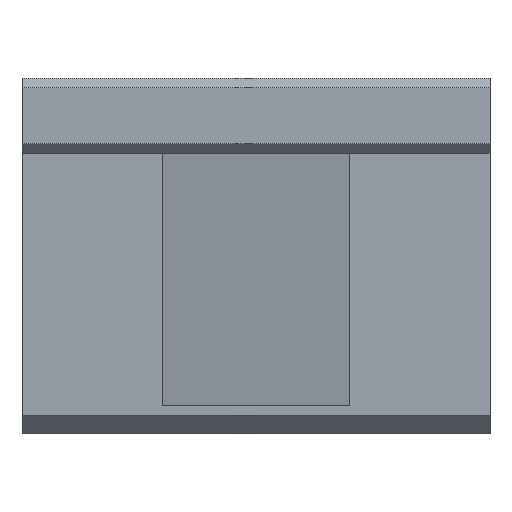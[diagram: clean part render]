
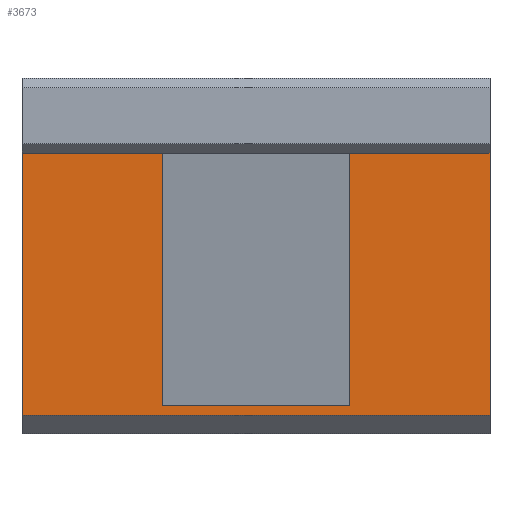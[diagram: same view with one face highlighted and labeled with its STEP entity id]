
A CAD part, front view. The second image highlights one B-rep face of the part: STEP entity #3673.
In plain terms, the highlighted planar face has unit normal (0, -1, 0).
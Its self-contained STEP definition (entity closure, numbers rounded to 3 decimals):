
#2501=CARTESIAN_POINT('',(0.0,-21.,-13.));
#2502=VERTEX_POINT('',#2501);
#2509=CARTESIAN_POINT('',(0.0,-21.0,15.0));
#2510=VERTEX_POINT('',#2509);
#2511=CARTESIAN_POINT('',(0.0,-21.0,15.0));
#2512=DIRECTION('',(0.0,0.0,-1.0));
#2513=VECTOR('',#2512,28.);
#2514=LINE('',#2511,#2513);
#2515=EDGE_CURVE('',#2510,#2502,#2514,.T.);
#2556=CARTESIAN_POINT('',(35.,-21.0,15.0));
#2557=VERTEX_POINT('',#2556);
#2564=CARTESIAN_POINT('',(50.0,-21.0,15.0));
#2565=VERTEX_POINT('',#2564);
#2566=CARTESIAN_POINT('',(35.,-21.0,15.0));
#2567=DIRECTION('',(1.0,0.0,0.0));
#2568=VECTOR('',#2567,15.);
#2569=LINE('',#2566,#2568);
#2570=EDGE_CURVE('',#2557,#2565,#2569,.T.);
#2599=CARTESIAN_POINT('',(50.0,-21.,-13.));
#2600=VERTEX_POINT('',#2599);
#2601=CARTESIAN_POINT('',(50.0,-21.,-13.));
#2602=DIRECTION('',(0.0,0.0,1.0));
#2603=VECTOR('',#2602,28.);
#2604=LINE('',#2601,#2603);
#2605=EDGE_CURVE('',#2600,#2565,#2604,.T.);
#3203=CARTESIAN_POINT('',(50.0,-21.,-13.));
#3204=DIRECTION('',(-1.0,0.0,0.0));
#3205=VECTOR('',#3204,50.0);
#3206=LINE('',#3203,#3205);
#3207=EDGE_CURVE('',#2600,#2502,#3206,.T.);
#3413=CARTESIAN_POINT('',(15.,-21.0,15.0));
#3414=VERTEX_POINT('',#3413);
#3421=CARTESIAN_POINT('',(15.,-21.,-12.));
#3422=VERTEX_POINT('',#3421);
#3423=CARTESIAN_POINT('',(15.,-21.,-12.));
#3424=DIRECTION('',(0.0,0.0,1.0));
#3425=VECTOR('',#3424,27.0);
#3426=LINE('',#3423,#3425);
#3427=EDGE_CURVE('',#3422,#3414,#3426,.T.);
#3443=CARTESIAN_POINT('',(35.,-21.,-12.));
#3444=VERTEX_POINT('',#3443);
#3460=CARTESIAN_POINT('',(35.,-21.,-12.));
#3461=DIRECTION('',(-1.0,0.0,0.0));
#3462=VECTOR('',#3461,20.);
#3463=LINE('',#3460,#3462);
#3464=EDGE_CURVE('',#3444,#3422,#3463,.T.);
#3491=CARTESIAN_POINT('',(35.,-21.0,15.0));
#3492=DIRECTION('',(0.0,0.0,-1.0));
#3493=VECTOR('',#3492,27.0);
#3494=LINE('',#3491,#3493);
#3495=EDGE_CURVE('',#2557,#3444,#3494,.T.);
#3653=CARTESIAN_POINT('',(0.0,-21.,-15.));
#3654=DIRECTION('',(0.0,-1.0,0.0));
#3655=DIRECTION('',(0.0,0.0,-1.0));
#3656=AXIS2_PLACEMENT_3D('',#3653,#3654,#3655);
#3657=PLANE('',#3656);
#3658=ORIENTED_EDGE('',*,*,#3207,.F.);
#3659=ORIENTED_EDGE('',*,*,#2605,.T.);
#3660=ORIENTED_EDGE('',*,*,#2570,.F.);
#3661=ORIENTED_EDGE('',*,*,#3495,.T.);
#3662=ORIENTED_EDGE('',*,*,#3464,.T.);
#3663=ORIENTED_EDGE('',*,*,#3427,.T.);
#3664=CARTESIAN_POINT('',(0.0,-21.0,15.0));
#3665=DIRECTION('',(1.0,0.0,0.0));
#3666=VECTOR('',#3665,15.);
#3667=LINE('',#3664,#3666);
#3668=EDGE_CURVE('',#2510,#3414,#3667,.T.);
#3669=ORIENTED_EDGE('',*,*,#3668,.F.);
#3670=ORIENTED_EDGE('',*,*,#2515,.T.);
#3671=EDGE_LOOP('',(#3658,#3659,#3660,#3661,#3662,#3663,#3669,#3670));
#3672=FACE_OUTER_BOUND('',#3671,.T.);
#3673=ADVANCED_FACE('',(#3672),#3657,.T.);
